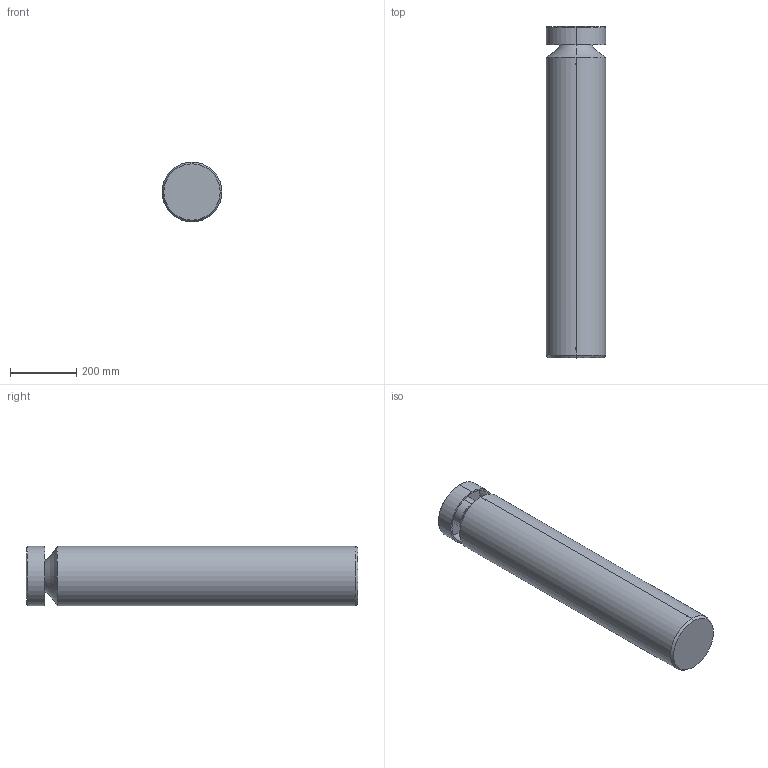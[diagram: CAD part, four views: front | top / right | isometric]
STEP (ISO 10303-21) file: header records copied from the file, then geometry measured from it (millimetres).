
FILE_DESCRIPTION (( 'STEP AP203' ), '1' );
FILE_NAME ('BOLLARD 1000.STEP', '2023-04-17T11:20:24', ( '' ), ( '' ), 'SwSTEP 2.0', 'SolidWorks 2017', '' );
FILE_SCHEMA (( 'CONFIG_CONTROL_DESIGN' ));
Length unit declared in the file: millimetre
Products named in the file (1): BOLLARD 1000
Bounding box: 180 x 1000.48 x 180 mm (x, y, z)
Volume: 24143700.3 mm3; surface area: 676110.3 mm2
Topology: 1 solids, 1 shells, 35 faces, 90 edges, 49 vertices
Faces by surface type: cylinder 16, cone 12, torus 4, plane 3
Entity records: 1283 total; most frequent: CARTESIAN_POINT 421, DIRECTION 168, ORIENTED_EDGE 160, EDGE_CURVE 80, AXIS2_PLACEMENT_3D 68, VERTEX_POINT 49, EDGE_LOOP 37, FACE_OUTER_BOUND 35
